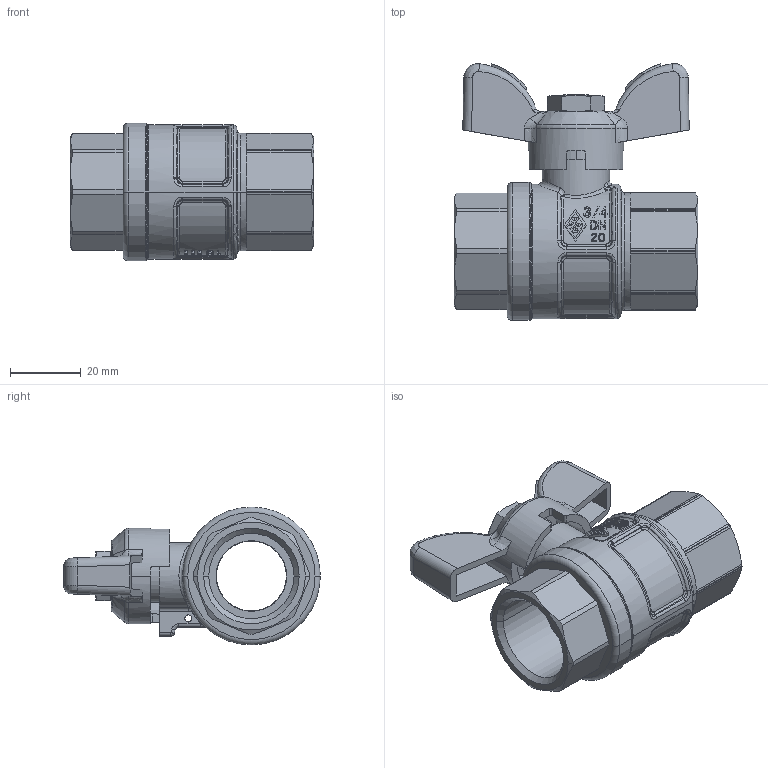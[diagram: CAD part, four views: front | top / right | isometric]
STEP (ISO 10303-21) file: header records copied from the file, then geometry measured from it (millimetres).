
FILE_DESCRIPTION(('Creo Elements/Direct Modeling STEP Export'),'2;1');
FILE_NAME('1720050000.stp','2021-05-20T 7:51:37',(''),(''),'Creo Elements/Direct Modeling STEP processor for AP214 (Solid Model)','Creo Elements/Direct Modeling 20.1D 10-Oct-2020 (C) Parametric Technology GmbH','');
FILE_SCHEMA(('AUTOMOTIVE_DESIGN { 1 0 10303 214 1 1 1 1 }'));
Products named in the file (3): 1720050000-637460.PRT; 1720050000-639370.ASM; 1720050000.stp
Assembly tree (2 placements, depth 3):
  1720050000.stp
    1720050000-639370.ASM
      1720050000-637460.PRT
Bounding box: 69 x 72.6 x 39 mm (x, y, z)
Volume: 50878.6 mm3; surface area: 22262.6 mm2
Topology: 1 solids, 1 shells, 1080 faces, 2956 edges, 1915 vertices
Faces by surface type: plane 619, cylinder 193, bspline 149, cone 78, torus 39, sphere 2
Entity records: 54993 total; most frequent: CARTESIAN_POINT 27051, ORIENTED_EDGE 5904, DIRECTION 5325, EDGE_CURVE 2952, AXIS2_PLACEMENT_3D 2142, VERTEX_POINT 1915, EDGE_LOOP 1129, FACE_OUTER_BOUND 1080
